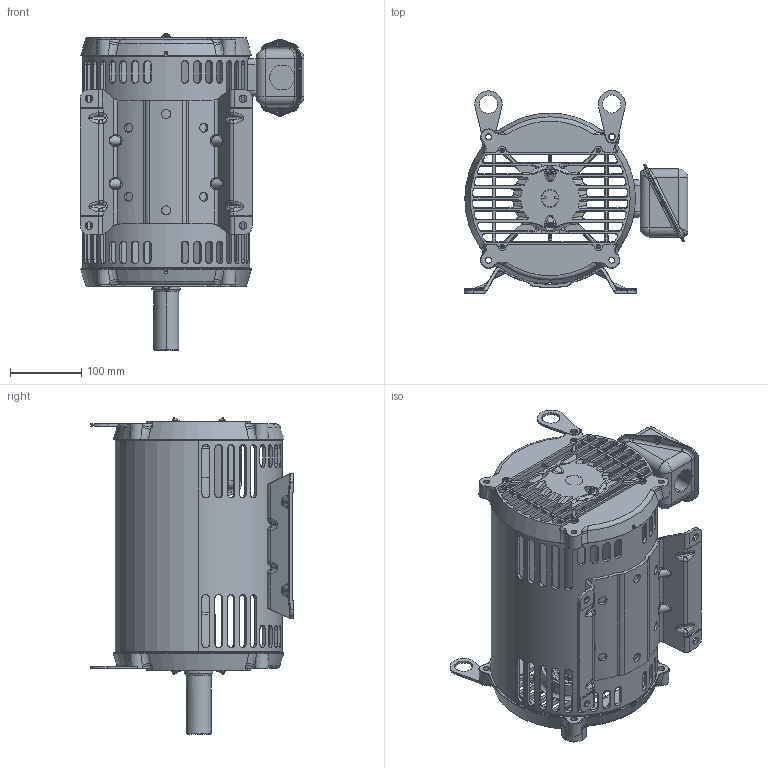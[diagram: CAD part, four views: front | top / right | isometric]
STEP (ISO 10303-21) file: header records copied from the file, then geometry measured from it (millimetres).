
FILE_DESCRIPTION((''),'2;1');
FILE_NAME('213_FULL_ASSY_ASM','2014-07-23T',('NMC779F'),('Nidec Motor Corporation'),'PRO/ENGINEER BY PARAMETRIC TECHNOLOGY CORPORATION, 2013150','PRO/ENGINEER BY PARAMETRIC TECHNOLOGY CORPORATION, 2013150','');
FILE_SCHEMA(('CONFIG_CONTROL_DESIGN'));
Length unit declared in the file: inch
Products named in the file (15): 213_FRAME; 0391764-BKT_AF0; 0298010_AF0; 0391765_ASM; 0391891-BKT_AF0; 0298013_AF0; 0391892_ASM; 0345787; 0398607; 0390418; 0390408; 0390417; 0376890; 0370460; 213_FULL_ASSY_ASM
Assembly tree (15 placements, depth 3):
  213_FULL_ASSY_ASM
    213_FRAME
    0391765_ASM
      0391764-BKT_AF0
      0298010_AF0
    0391892_ASM
      0391891-BKT_AF0
      0298013_AF0
    0345787
    0398607
    0390418
    0390408
    0390417
    0376890  x2
    0370460
Bounding box: 313.72 x 284.23 x 443.46 mm (x, y, z)
Volume: 2318303.2 mm3; surface area: 981059.7 mm2
Topology: 15 solids, 15 shells, 2114 faces, 5844 edges, 3676 vertices
Faces by surface type: plane 653, cylinder 596, bspline 426, cone 303, torus 120, sphere 16
Entity records: 90492 total; most frequent: CARTESIAN_POINT 40084, ORIENTED_EDGE 11620, DIRECTION 9004, EDGE_CURVE 5810, VERTEX_POINT 3660, AXIS2_PLACEMENT_3D 3314, VECTOR 2376, LINE 2376
